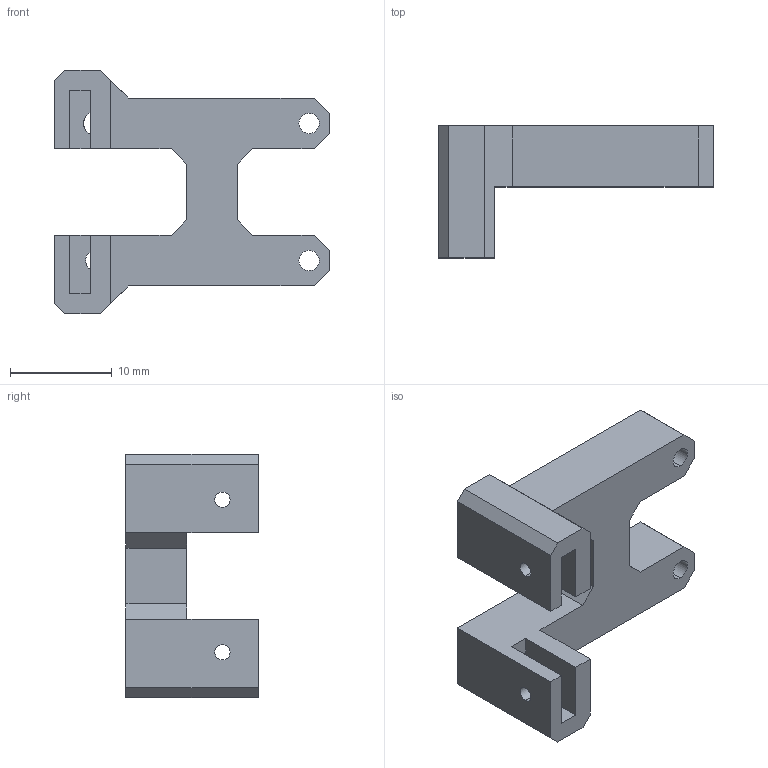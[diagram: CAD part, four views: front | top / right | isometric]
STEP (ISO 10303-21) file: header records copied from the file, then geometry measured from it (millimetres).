
FILE_DESCRIPTION (( 'STEP AP203' ), '1' );
FILE_NAME ('CAMTILT-RASBERRYPI-MOUNT-R1.STEP', '2016-04-26T21:43:18', ( '' ), ( '' ), 'SwSTEP 2.0', 'SolidWorks 2014', '' );
FILE_SCHEMA (( 'CONFIG_CONTROL_DESIGN' ));
Length unit declared in the file: millimetre
Products named in the file (1): CAMTILT-RASBERRYPI-MOUNT-R1
Bounding box: 27.05 x 13 x 24 mm (x, y, z)
Volume: 2379 mm3; surface area: 2174.5 mm2
Topology: 1 solids, 1 shells, 58 faces, 170 edges, 112 vertices
Faces by surface type: plane 42, cylinder 16
Entity records: 2027 total; most frequent: CARTESIAN_POINT 341, ORIENTED_EDGE 340, DIRECTION 324, EDGE_CURVE 170, LINE 134, VECTOR 134, VERTEX_POINT 112, AXIS2_PLACEMENT_3D 95
